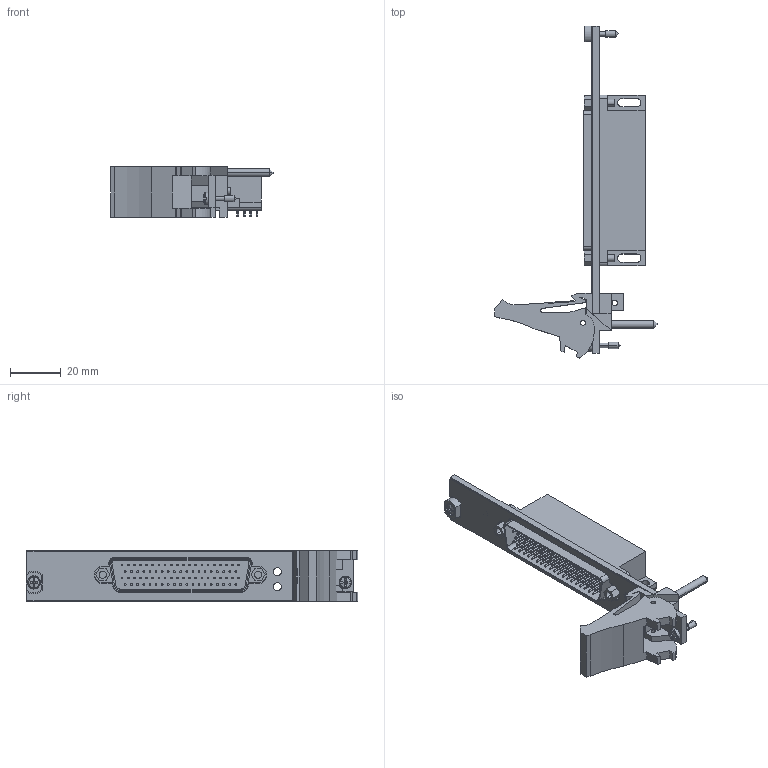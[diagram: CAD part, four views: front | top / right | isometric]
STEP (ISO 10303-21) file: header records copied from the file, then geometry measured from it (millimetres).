
FILE_DESCRIPTION((''),'2;1');
FILE_NAME('CU_PXI-2567','2009-09-08T',('jjorden'),(''),'PRO/ENGINEER BY PARAMETRIC TECHNOLOGY CORPORATION, 2006080','PRO/ENGINEER BY PARAMETRIC TECHNOLOGY CORPORATION, 2006080','');
FILE_SCHEMA(('CONFIG_CONTROL_DESIGN'));
Length unit declared in the file: inch
Products named in the file (1): CU_PXI-2567
Bounding box: 63.73 x 130.5 x 20.02 mm (x, y, z)
Volume: 29698.7 mm3; surface area: 18133.9 mm2
Topology: 1 solids, 2 shells, 828 faces, 1894 edges, 1249 vertices
Faces by surface type: cylinder 413, plane 397, cone 10, torus 4, sphere 4
Entity records: 23773 total; most frequent: DIRECTION 4397, CARTESIAN_POINT 4086, ORIENTED_EDGE 3780, EDGE_CURVE 1890, AXIS2_PLACEMENT_3D 1696, VERTEX_POINT 1249, EDGE_LOOP 1037, VECTOR 1005
